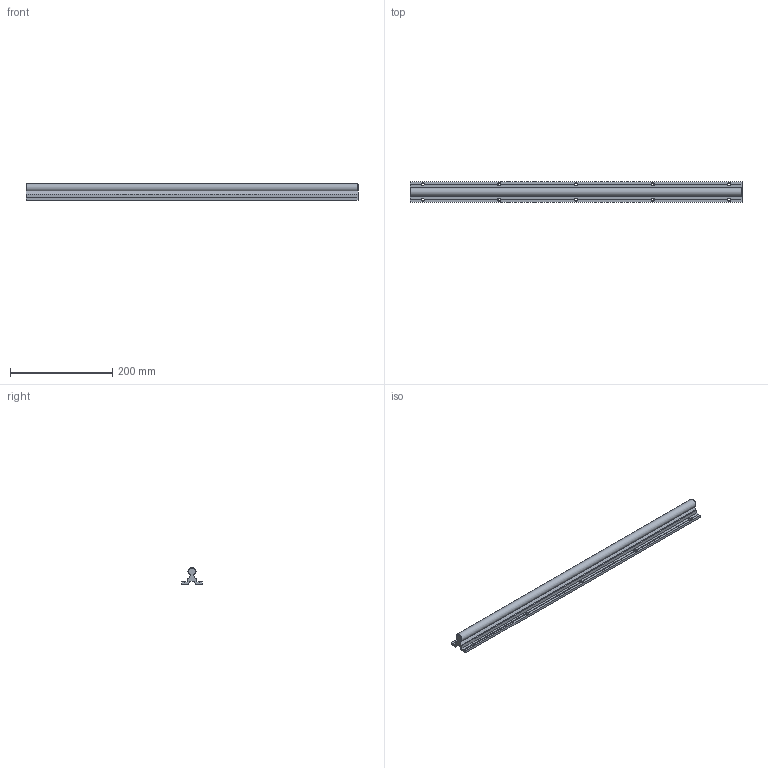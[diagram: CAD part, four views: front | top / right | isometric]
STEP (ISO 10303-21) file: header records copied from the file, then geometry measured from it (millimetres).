
FILE_DESCRIPTION(/* description */ (''),/* implementation_level */ '2;1');
FILE_NAME(/* name */ 'C:\Users\David\Desktop\stepFiles\Profilfuehrung\LFS16x650.stp',/* time_stamp */ '2018-06-24T15:18:13+02:00',/* author */ ('Buskamp'),/* organization */ (''),/* preprocessor_version */ 'ST-DEVELOPER v17',/* originating_system */ 'Autodesk Inventor 2019',/* authorisation */ '');
FILE_SCHEMA (('AUTOMOTIVE_DESIGN { 1 0 10303 214 3 1 1 }'));
Length unit declared in the file: millimetre
Products named in the file (1): Linearführung D16xvariabel
Bounding box: 650 x 40 x 32.97 mm (x, y, z)
Volume: 331763.5 mm3; surface area: 102619 mm2
Topology: 1 solids, 1 shells, 84 faces, 254 edges, 162 vertices
Faces by surface type: plane 55, cone 18, cylinder 11
Full cylindrical faces by diameter (mm): 5.5 x10
Entity records: 2895 total; most frequent: CARTESIAN_POINT 573, ORIENTED_EDGE 508, DIRECTION 478, EDGE_CURVE 254, AXIS2_PLACEMENT_3D 175, VERTEX_POINT 162, LINE 128, VECTOR 128
